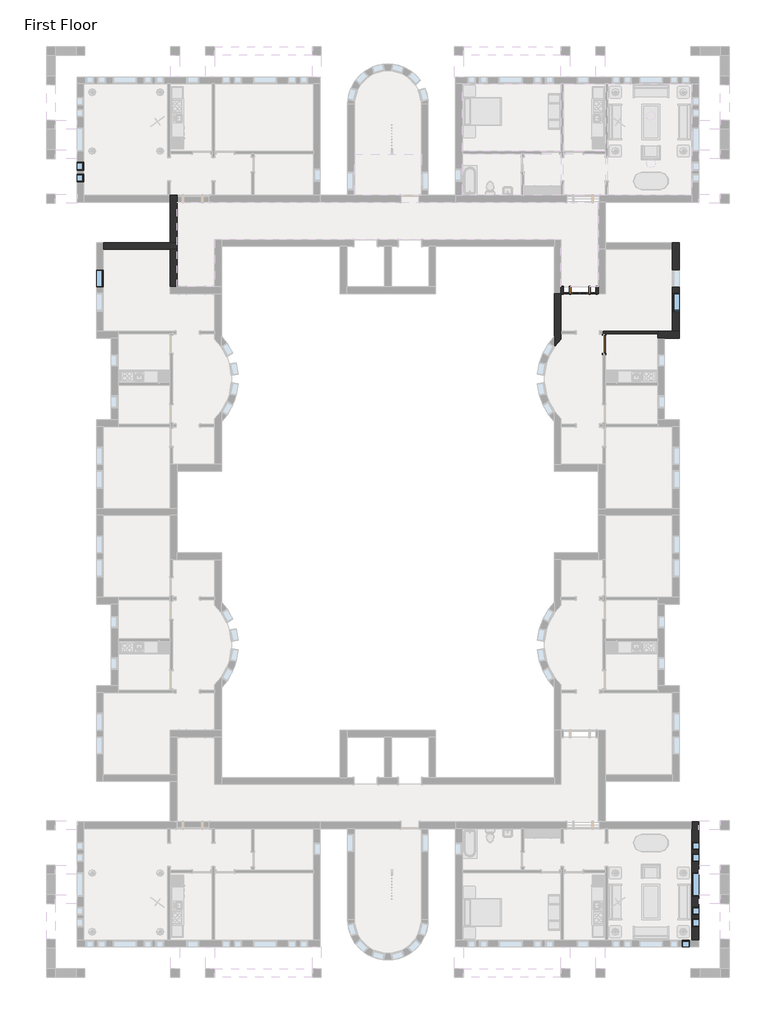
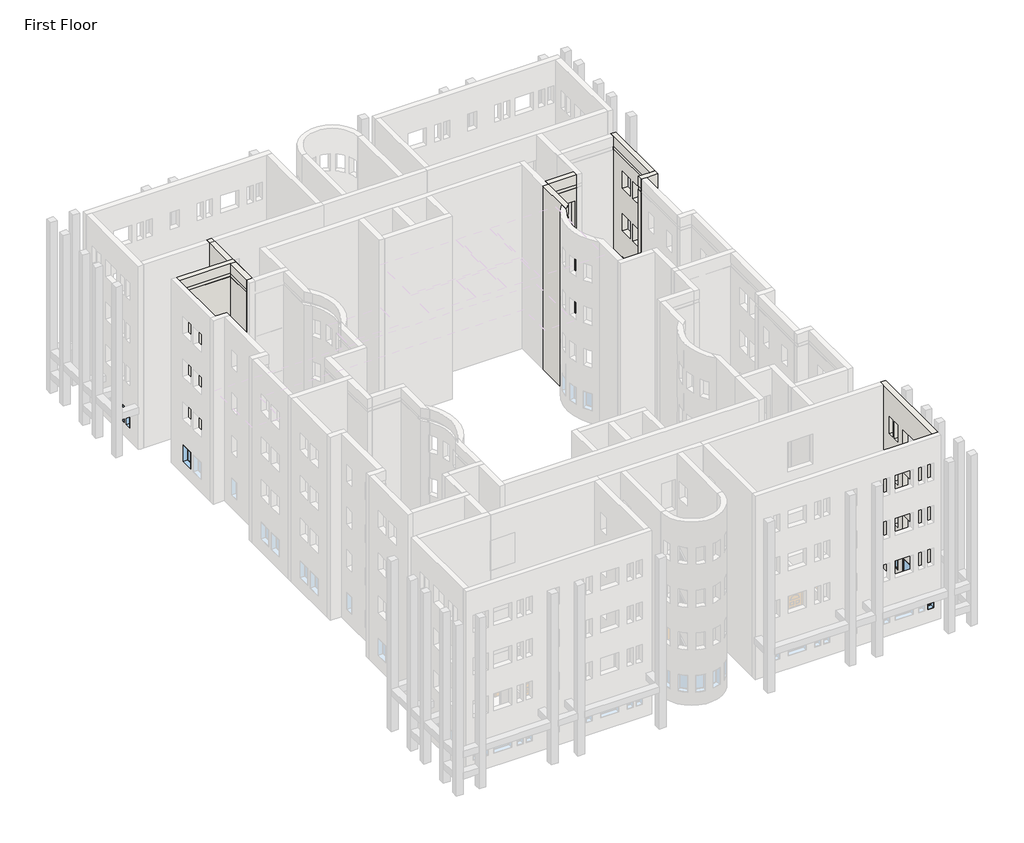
# One storey, part 13 of 23: 10 windows, 9 walls, 2 doors.
"""IFC4 building model written with IfcOpenShell, lengths in millimetres."""

from ifc_helpers import new_model, si_unit, frame, origin, place, context, project, spatial, polyline, circle_curve, outline, extrude, faceted_brep, transform, mapped, element, save
from ifc_brep_helpers import plane_surface, revolved_surface, advanced_brep
from components import door_a3eb833a, door_ffdb1193, window_da97879f, window_d61ef850, window_15c49d37, window_0e2fc6ce, window_d89bf842

model = new_model("IFC4")

# Units and contexts
model_context = context("Model", 3, world=origin())
ifc_project = project(units=[si_unit("LENGTHUNIT", "METRE", prefix="MILLI")], contexts=[model_context])

# Site, building, storey
site = spatial("IfcSite", under=ifc_project)
building = spatial("IfcBuilding", under=site)
storey = spatial("IfcBuildingStorey", under=building, Name="First Floor", Elevation=0.0)

# Doors
placement = place(None, origin())
door_shape = door_a3eb833a(model_context)
element("IfcDoor", 1, ObjectType="Single-Flush : 36\" x 84\"", at=placement, inside=storey, context=model_context, shape_type="MappedRepresentation", body=[
    mapped(door_shape, transform((-3900.4589563, -3157.0558133, 0.0), x_axis=(0.0, 1.0, 0.0), y_axis=(-1.0, 0.0, 0.0), z_axis=(0.0, 0.0, 1.0))),
])
door_2_shape = door_ffdb1193(model_context)
element("IfcDoor", 2, ObjectType="Single-Raised Panel with Sidelights : 36\" x 84\"", at=placement, inside=storey, context=model_context, shape_type="MappedRepresentation", body=[
    mapped(door_2_shape, transform((-5156.1714563, -374.1683133, 0.0), x_axis=(-1.0, 0.0, 0.0), y_axis=(0.0, -1.0, 0.0), z_axis=(0.0, 0.0, 1.0))),
])

# Walls
element("IfcWall", 3, ObjectType="Exterior - Brick on Mtl. Stud", at=placement, inside=storey, context=model_context, shape_type="Brep", body=[
    faceted_brep([(-25934.9589563, -197.9558133, 0.0), (-25934.9589563, 4174.0191867, 0.0), (-25934.9589563, 4526.4441867, 0.0), (-25934.9589563, 4526.4441867, 13106.4), (-25934.9589563, 4174.0191867, 13106.4), (-25934.9589563, -197.9558133, 13106.4), (-26287.3839563, -197.9558133, 0.0), (-26287.3839563, -197.9558133, 13106.4), (-26287.3839563, 4526.4441867, 13106.4), (-26287.3839563, 4526.4441867, 0.0)], [[[0, 1, 2, 3, 4, 5]], [[6, 7, 8, 9]], [[2, 1, 0, 6, 9]], [[5, 4, 3, 8, 7]], [[3, 2, 9, 8]], [[0, 5, 7, 6]]]),
])
element("IfcWall", 4, ObjectType="Exterior - Brick on Mtl. Stud", at=placement, inside=storey, context=model_context, shape_type="Brep", body=[
    faceted_brep([(-6122.9589563, -197.9558133, 13106.4), (-4189.3839563, -197.9558133, 13106.4), (-4189.3839563, -197.9558133, 0.0), (-4317.9714563, -197.9558133, 0.0), (-4317.9714563, -197.9558133, 2133.6), (-5994.3714563, -197.9558133, 2133.6), (-5994.3714563, -197.9558133, 0.0), (-6122.9589563, -197.9558133, 0.0), (-5994.3714563, -197.9558133, 6096.0), (-4317.9714563, -197.9558133, 6096.0), (-4317.9714563, -197.9558133, 8229.6), (-5994.3714563, -197.9558133, 8229.6), (-5994.3714563, -197.9558133, 3048.0), (-4317.9714563, -197.9558133, 3048.0), (-4317.9714563, -197.9558133, 5181.6), (-5994.3714563, -197.9558133, 5181.6), (-5994.3714563, -197.9558133, 9144.0), (-4317.9714563, -197.9558133, 9144.0), (-4317.9714563, -197.9558133, 11277.6), (-5994.3714563, -197.9558133, 11277.6), (-4189.3839563, -550.3808133, 13106.4), (-6122.9589563, -550.3808133, 13106.4), (-6122.9589563, -550.3808133, 12420.6), (-4189.3839563, -550.3808133, 12420.6), (-5994.3714563, -550.3808133, 0.0), (-5994.3714563, -550.3808133, 2133.6), (-4317.9714563, -550.3808133, 2133.6), (-4317.9714563, -550.3808133, 0.0), (-4189.3839563, -550.3808133, 0.0), (-4189.3839563, -550.3808133, 12192.0), (-6122.9589563, -550.3808133, 12192.0), (-6122.9589563, -550.3808133, 0.0), (-4317.9714563, -550.3808133, 6096.0), (-5994.3714563, -550.3808133, 6096.0), (-5994.3714563, -550.3808133, 8229.6), (-4317.9714563, -550.3808133, 8229.6), (-4317.9714563, -550.3808133, 3048.0), (-5994.3714563, -550.3808133, 3048.0), (-5994.3714563, -550.3808133, 5181.6), (-4317.9714563, -550.3808133, 5181.6), (-4317.9714563, -550.3808133, 9144.0), (-5994.3714563, -550.3808133, 9144.0), (-5994.3714563, -550.3808133, 11277.6), (-4317.9714563, -550.3808133, 11277.6), (-4189.3839563, -537.6808133, 12420.6), (-4189.3839563, -537.6808133, 12192.0), (-6122.9589563, -537.6808133, 12192.0), (-6122.9589563, -537.6808133, 12420.6)], [[[0, 1, 2, 3, 4, 5, 6, 7], [8, 9, 10, 11], [12, 13, 14, 15], [16, 17, 18, 19]], [[20, 21, 22, 23]], [[24, 25, 26, 27, 28, 29, 30, 31], [32, 33, 34, 35], [36, 37, 38, 39], [40, 41, 42, 43]], [[2, 28, 27, 3]], [[31, 7, 6, 24]], [[1, 0, 21, 20]], [[2, 1, 20, 23, 44, 45, 29, 28]], [[0, 7, 31, 30, 46, 47, 22, 21]], [[25, 24, 6, 5]], [[26, 25, 5, 4]], [[27, 26, 4, 3]], [[33, 32, 9, 8]], [[34, 33, 8, 11]], [[35, 34, 11, 10]], [[32, 35, 10, 9]], [[37, 36, 13, 12]], [[38, 37, 12, 15]], [[39, 38, 15, 14]], [[36, 39, 14, 13]], [[41, 40, 17, 16]], [[42, 41, 16, 19]], [[43, 42, 19, 18]], [[40, 43, 18, 17]], [[45, 46, 30, 29]], [[47, 44, 23, 22]], [[46, 45, 44, 47]]]),
])
element("IfcWall", 5, ObjectType="Exterior - Brick on Mtl. Stud", at=placement, inside=storey, context=model_context, shape_type="AdvancedBrep", body=[
    advanced_brep(
    [(-6475.3839563, -550.3808133, 0.0), (-6475.3839563, -2741.7830793, 0.0), (-6475.3839563, -3299.6776635, 0.0), (-6475.3839563, -3299.6776635, 914.4), (-6475.3839563, -3250.3894156, 914.4), (-6475.3839563, -3250.3894156, 2133.6), (-6475.3839563, -3299.6776635, 2133.6), (-6475.3839563, -3299.6776635, 3962.4), (-6475.3839563, -3250.3894156, 3962.4), (-6475.3839563, -3250.3894156, 5181.6), (-6475.3839563, -3299.6776635, 5181.6), (-6475.3839563, -3299.6776635, 7010.4), (-6475.3839563, -3250.3894156, 7010.4), (-6475.3839563, -3250.3894156, 8229.6), (-6475.3839563, -3299.6776635, 8229.6), (-6475.3839563, -3299.6776635, 10058.4), (-6475.3839563, -3250.3894156, 10058.4), (-6475.3839563, -3250.3894156, 11277.6), (-6475.3839563, -3299.6776635, 11277.6), (-6475.3839563, -3299.6776635, 12192.0), (-6475.3839563, -2991.1907425, 12192.0), (-6475.3839563, -2991.1907425, 12420.6), (-6475.3839563, -3299.6776635, 12420.6), (-6475.3839563, -3299.6776635, 13106.4), (-6475.3839563, -2741.7830793, 13106.4), (-6475.3839563, -550.3808133, 13106.4), (-6122.9589563, -2885.7839656, 0.0), (-6122.9589563, -2610.9558133, 0.0), (-6122.9589563, -2483.9558133, 0.0), (-6122.9589563, -550.3808133, 0.0), (-6122.9589563, -550.3808133, 12192.0), (-6122.9589563, -2483.9558133, 12192.0), (-6122.9589563, -2610.9558133, 12192.0), (-6122.9589563, -2885.7839656, 12192.0), (-6122.9589563, -550.3808133, 13106.4), (-6122.9589563, -2885.7839656, 13106.4), (-6122.9589563, -2885.7839656, 12420.6), (-6122.9589563, -550.3808133, 12420.6), (-6469.9143656, -3291.8888446, 11277.6), (-6469.9143656, -3291.8888446, 10058.4), (-6469.9143656, -3291.8888446, 8229.6), (-6469.9143656, -3291.8888446, 7010.4), (-6469.9143656, -3291.8888446, 5181.6), (-6469.9143656, -3291.8888446, 3962.4), (-6469.9143656, -3291.8888446, 2133.6), (-6469.9143656, -3291.8888446, 914.4), (-6135.6589563, -550.3808133, 12420.6), (-6135.6589563, -550.3808133, 12192.0), (-6453.3830671, -3262.9631051, 2133.6), (-6453.3830671, -3262.9631051, 914.4), (-6453.3830671, -3262.9631051, 11277.6), (-6453.3830671, -3262.9631051, 10058.4), (-6453.3830671, -3262.9631051, 5181.6), (-6453.3830671, -3262.9631051, 3962.4), (-6453.3830671, -3262.9631051, 8229.6), (-6453.3830671, -3262.9631051, 7010.4), (-6135.6589563, -2642.86294, 12192.0), (-6135.6589563, -2642.86294, 12420.6)],
    [
        (0, 1),
        (1, 2),
        (2, 3),
        (3, 4),
        (4, 5),
        (5, 6),
        (6, 7),
        (7, 8),
        (8, 9),
        (9, 10),
        (10, 11),
        (11, 12),
        (12, 13),
        (13, 14),
        (14, 15),
        (15, 16),
        (16, 17),
        (17, 18),
        (18, 19),
        (19, 20),
        (20, 21),
        (21, 22),
        (22, 23),
        (23, 24),
        (24, 25),
        (25, 0),
        (26, 27),
        (27, 28),
        (28, 29),
        (29, 30),
        (30, 31),
        (31, 32),
        (32, 33),
        (33, 26),
        (34, 35),
        (35, 36),
        (36, 37),
        (37, 34),
        (0, 29),
        (26, 2, circle_curve(frame((-4122.4640713, -4946.1683133, 0.0), z_axis=(0.0, 0.0, 1.0), x_axis=(0.0, 1.0, 0.0)), 2871.7875)),
        (23, 35, circle_curve(frame((-4122.4640713, -4946.1683133, 13106.4), z_axis=(0.0, 0.0, -1.0), x_axis=(0.0, 1.0, 0.0)), 2871.7875)),
        (34, 25),
        (33, 19, circle_curve(frame((-4122.4640713, -4946.1683133, 12192.0), z_axis=(0.0, 0.0, 1.0), x_axis=(0.0, 1.0, 0.0)), 2871.7875)),
        (18, 38, circle_curve(frame((-4122.4640713, -4946.1683133, 11277.6), z_axis=(0.0, 0.0, -1.0), x_axis=(0.0, 1.0, 0.0)), 2871.7875)),
        (38, 39),
        (39, 15, circle_curve(frame((-4122.4640713, -4946.1683133, 10058.4), z_axis=(0.0, 0.0, 1.0), x_axis=(0.0, 1.0, 0.0)), 2871.7875)),
        (14, 40, circle_curve(frame((-4122.4640713, -4946.1683133, 8229.6), z_axis=(0.0, 0.0, -1.0), x_axis=(0.0, 1.0, 0.0)), 2871.7875)),
        (40, 41),
        (41, 11, circle_curve(frame((-4122.4640713, -4946.1683133, 7010.4), z_axis=(0.0, 0.0, 1.0), x_axis=(0.0, 1.0, 0.0)), 2871.7875)),
        (10, 42, circle_curve(frame((-4122.4640713, -4946.1683133, 5181.6), z_axis=(0.0, 0.0, -1.0), x_axis=(0.0, 1.0, 0.0)), 2871.7875)),
        (42, 43),
        (43, 7, circle_curve(frame((-4122.4640713, -4946.1683133, 3962.4), z_axis=(0.0, 0.0, 1.0), x_axis=(0.0, 1.0, 0.0)), 2871.7875)),
        (6, 44, circle_curve(frame((-4122.4640713, -4946.1683133, 2133.6), z_axis=(0.0, 0.0, -1.0), x_axis=(0.0, 1.0, 0.0)), 2871.7875)),
        (44, 45),
        (45, 3, circle_curve(frame((-4122.4640713, -4946.1683133, 914.4), z_axis=(0.0, 0.0, 1.0), x_axis=(0.0, 1.0, 0.0)), 2871.7875)),
        (22, 36, circle_curve(frame((-4122.4640713, -4946.1683133, 12420.6), z_axis=(0.0, 0.0, -1.0), x_axis=(0.0, 1.0, 0.0)), 2871.7875)),
        (37, 46),
        (46, 47),
        (47, 30),
        (48, 49),
        (49, 45),
        (44, 48),
        (49, 4),
        (48, 5),
        (50, 51),
        (51, 39),
        (38, 50),
        (51, 16),
        (50, 17),
        (52, 53),
        (53, 43),
        (42, 52),
        (53, 8),
        (52, 9),
        (54, 55),
        (55, 41),
        (40, 54),
        (55, 12),
        (54, 13),
        (47, 56),
        (56, 20, circle_curve(frame((-4122.4640713, -4946.1683133, 12192.0), z_axis=(0.0, 0.0, 1.0), x_axis=(0.0, -1.0, 0.0)), 3059.1125)),
        (21, 57, circle_curve(frame((-4122.4640713, -4946.1683133, 12420.6), z_axis=(0.0, 0.0, -1.0), x_axis=(0.0, -1.0, 0.0)), 3059.1125)),
        (57, 46),
        (57, 56),
    ],
    [
        plane_surface(frame((-6475.3839563, -374.1683133, 0.0), z_axis=(-1.0, 0.0, 0.0), x_axis=(0.0, -1.0, 0.0))),
        plane_surface(frame((-6122.9589563, -374.1683133, 0.0), z_axis=(1.0, 0.0, 0.0), x_axis=(0.0, 1.0, 0.0))),
        plane_surface(frame((-6475.3839563, -374.1683133, 0.0), z_axis=(0.0, 0.0, -1.0), x_axis=(1.0, 0.0, 0.0))),
        plane_surface(frame((-6475.3839563, -2812.5683133, 13106.4), z_axis=(0.0, 0.0, 1.0), x_axis=(1.0, 0.0, 0.0))),
        revolved_surface(polyline([(-4122.4640713, -2074.3808132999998, 0.0), (-4122.4640713, -2074.3808132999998, 12192.0)]), (-4122.4640713, -4946.1683133, 0.0), (0.0, 0.0, -1.0)),
        revolved_surface(polyline([(-4122.4640713, -2074.3808132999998, 12420.6), (-4122.4640713, -2074.3808132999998, 13106.4)]), (-4122.4640713, -4946.1683133, 0.0), (0.0, 0.0, -1.0)),
        plane_surface(frame((-4013.1714563, -550.3808133, 0.0), z_axis=(0.0, 1.0, 0.0), x_axis=(1.0, 0.0, 0.0))),
        plane_surface(frame((-6755.8611513, -3792.2259591, 2133.6), z_axis=(-0.868213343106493, 0.4961910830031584, 0.0), x_axis=(0.0, 0.0, -1.0))),
        plane_surface(frame((-6755.8611513, -3792.2259591, 914.4), z_axis=(0.0, 0.0, 1.0000000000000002), x_axis=(-0.868213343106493, 0.49619108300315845, 0.0))),
        plane_surface(frame((-6453.3830671, -3262.9631051, 914.4), z_axis=(-0.49619108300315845, -0.868213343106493, 0.0), x_axis=(-0.868213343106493, 0.49619108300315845, 0.0))),
        plane_surface(frame((-6453.3830671, -3262.9631051, 2133.6), z_axis=(0.0, 0.0, -1.0000000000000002), x_axis=(-0.868213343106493, 0.49619108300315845, 0.0))),
        plane_surface(frame((-6755.8611513, -3792.2259591, 11277.6), z_axis=(-0.868213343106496, 0.496191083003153, 0.0), x_axis=(0.0, 0.0, -1.0))),
        plane_surface(frame((-6755.8611513, -3792.2259591, 10058.4), z_axis=(0.0, 0.0, 1.0), x_axis=(-0.8682133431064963, 0.49619108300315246, 0.0))),
        plane_surface(frame((-6453.3830671, -3262.9631051, 10058.4), z_axis=(-0.49619108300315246, -0.8682133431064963, 0.0), x_axis=(-0.8682133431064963, 0.49619108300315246, 0.0))),
        plane_surface(frame((-6453.3830671, -3262.9631051, 11277.6), z_axis=(0.0, 0.0, -1.0), x_axis=(-0.8682133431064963, 0.49619108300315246, 0.0))),
        plane_surface(frame((-6755.8611513, -3792.2259591, 5181.6), z_axis=(-0.868213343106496, 0.496191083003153, 0.0), x_axis=(0.0, 0.0, -1.0))),
        plane_surface(frame((-6755.8611513, -3792.2259591, 3962.4), z_axis=(0.0, 0.0, 1.0), x_axis=(-0.8682133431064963, 0.49619108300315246, 0.0))),
        plane_surface(frame((-6453.3830671, -3262.9631051, 3962.4), z_axis=(-0.49619108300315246, -0.8682133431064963, 0.0), x_axis=(-0.8682133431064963, 0.49619108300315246, 0.0))),
        plane_surface(frame((-6453.3830671, -3262.9631051, 5181.6), z_axis=(0.0, 0.0, -1.0), x_axis=(-0.8682133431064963, 0.49619108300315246, 0.0))),
        plane_surface(frame((-6755.8611513, -3792.2259591, 8229.6), z_axis=(-0.868213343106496, 0.496191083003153, 0.0), x_axis=(0.0, 0.0, -1.0))),
        plane_surface(frame((-6755.8611513, -3792.2259591, 7010.4), z_axis=(0.0, 0.0, 1.0), x_axis=(-0.8682133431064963, 0.49619108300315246, 0.0))),
        plane_surface(frame((-6453.3830671, -3262.9631051, 7010.4), z_axis=(-0.49619108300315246, -0.8682133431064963, 0.0), x_axis=(-0.8682133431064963, 0.49619108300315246, 0.0))),
        plane_surface(frame((-6453.3830671, -3262.9631051, 8229.6), z_axis=(0.0, 0.0, -1.0), x_axis=(-0.8682133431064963, 0.49619108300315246, 0.0))),
        plane_surface(frame((-366.6839563, -11640.6558133, 12192.0), z_axis=(0.0, 0.0, 1.0), x_axis=(1.0, 0.0, 0.0))),
        plane_surface(frame((-366.6839563, -11640.6558133, 12420.6), z_axis=(0.0, 0.0, -1.0), x_axis=(1.0, 0.0, 0.0))),
        plane_surface(frame((-6135.6589563, -537.6808133, 12192.0), z_axis=(1.0, 0.0, 0.0), x_axis=(0.0, -1.0, 0.0))),
        revolved_surface(polyline([(-4122.4640713, -8005.2808133, 12420.6), (-4122.4640713, -8005.2808133, 12192.0)]), (-4122.4640713, -4946.1683133, 12192.0), (0.0, 0.0, 1.0)),
    ],
    [
        (0, [[1, 2, 3, 4, 5, 6, 7, 8, 9, 10, 11, 12, 13, 14, 15, 16, 17, 18, 19, 20, 21, 22, 23, 24, 25, 26]]),
        (1, [[27, 28, 29, 30, 31, 32, 33, 34]]),
        (1, [[35, 36, 37, 38]]),
        (2, [[-2, -1, 39, -29, -28, -27, 40]]),
        (3, [[-25, -24, 41, -35, 42]]),
        (4, [[-40, -34, 43, -19, 44, 45, 46, -15, 47, 48, 49, -11, 50, 51, 52, -7, 53, 54, 55, -3]]),
        (5, [[-41, -23, 56, -36]]),
        (6, [[-26, -42, -38, 57, 58, 59, -30, -39]]),
        (7, [[60, 61, -54, 62]]),
        (8, [[63, -4, -55, -61]]),
        (9, [[-60, 64, -5, -63]]),
        (10, [[-64, -62, -53, -6]]),
        (11, [[65, 66, -45, 67]]),
        (12, [[68, -16, -46, -66]]),
        (13, [[-65, 69, -17, -68]]),
        (14, [[-69, -67, -44, -18]]),
        (15, [[70, 71, -51, 72]]),
        (16, [[73, -8, -52, -71]]),
        (17, [[-70, 74, -9, -73]]),
        (18, [[-74, -72, -50, -10]]),
        (19, [[75, 76, -48, 77]]),
        (20, [[78, -12, -49, -76]]),
        (21, [[-75, 79, -13, -78]]),
        (22, [[-79, -77, -47, -14]]),
        (23, [[80, 81, -20, -43, -33, -32, -31, -59]]),
        (24, [[82, 83, -57, -37, -56, -22]]),
        (25, [[84, -80, -58, -83]]),
        (26, [[-84, -82, -21, -81]]),
    ],
),
])
element("IfcWall", 6, ObjectType="Exterior - Brick on Mtl. Stud", at=placement, inside=storey, context=model_context, shape_type="Brep", body=[
    faceted_brep([(-1141.3839563, -2836.3808133, 0.0), (-788.9589563, -2836.3808133, 0.0), (-26.9589563, -2836.3808133, 0.0), (-26.9589563, -2836.3808133, 13106.4), (-788.9589563, -2836.3808133, 13106.4), (-1141.3839563, -2836.3808133, 13106.4), (-1141.3839563, -2836.3808133, 12420.6), (-1128.6839563, -2836.3808133, 12420.6), (-1128.6839563, -2836.3808133, 12192.0), (-1141.3839563, -2836.3808133, 12192.0), (-26.9589563, -2483.9558133, 0.0), (-379.3839563, -2483.9558133, 0.0), (-1141.3839563, -2483.9558133, 0.0), (-1141.3839563, -2483.9558133, 3048.0), (-1141.3839563, -2483.9558133, 6096.0), (-1141.3839563, -2483.9558133, 9144.0), (-1141.3839563, -2483.9558133, 12192.0), (-379.3839563, -2483.9558133, 12192.0), (-366.6839563, -2483.9558133, 12192.0), (-366.6839563, -2483.9558133, 12420.6), (-379.3839563, -2483.9558133, 12420.6), (-1141.3839563, -2483.9558133, 12420.6), (-1141.3839563, -2483.9558133, 13106.4), (-379.3839563, -2483.9558133, 13106.4), (-26.9589563, -2483.9558133, 13106.4), (-1141.3839563, -2610.9558133, 0.0), (-1141.3839563, -2610.9558133, 12192.0), (-1128.6839563, -2496.6558133, 12192.0), (-366.6839563, -2496.6558133, 12192.0), (-366.6839563, -2496.6558133, 12420.6), (-1128.6839563, -2496.6558133, 12420.6)], [[[0, 1, 2, 3, 4, 5, 6, 7, 8, 9]], [[10, 11, 12, 13, 14, 15, 16, 17, 18, 19, 20, 21, 22, 23, 24]], [[2, 1, 0, 25, 12, 11, 10]], [[5, 4, 3, 24, 23, 22]], [[12, 25, 0, 9, 26, 16, 15, 14, 13]], [[5, 22, 21, 6]], [[3, 2, 10, 24]], [[27, 28, 18, 17, 16, 26, 9, 8]], [[29, 30, 7, 6, 21, 20, 19]], [[30, 27, 8, 7]], [[28, 27, 30, 29]], [[28, 29, 19, 18]]]),
])
element("IfcWall", 7, ObjectType="Exterior - Brick on Mtl. Stud", at=placement, inside=storey, context=model_context, shape_type="Brep", body=[
    faceted_brep([(-26.9589563, -2483.9558133, 0.0), (-26.9589563, 2088.0441867, 0.0), (-26.9589563, 2088.0441867, 13106.4), (-26.9589563, -2483.9558133, 13106.4), (-26.9589563, -1440.9683133, 7010.4), (-26.9589563, -1440.9683133, 8229.6), (-26.9589563, -526.5683133, 8229.6), (-26.9589563, -526.5683133, 7010.4), (-26.9589563, -221.7683133, 7010.4), (-26.9589563, -221.7683133, 8229.6), (-26.9589563, 692.6316867, 8229.6), (-26.9589563, 692.6316867, 7010.4), (-26.9589563, -1440.9683133, 3962.4), (-26.9589563, -1440.9683133, 5181.6), (-26.9589563, -526.5683133, 5181.6), (-26.9589563, -526.5683133, 3962.4), (-26.9589563, -221.7683133, 3962.4), (-26.9589563, -221.7683133, 5181.6), (-26.9589563, 692.6316867, 5181.6), (-26.9589563, 692.6316867, 3962.4), (-26.9589563, -1440.9683133, 10058.4), (-26.9589563, -1440.9683133, 11277.6), (-26.9589563, -526.5683133, 11277.6), (-26.9589563, -526.5683133, 10058.4), (-26.9589563, -221.7683133, 10058.4), (-26.9589563, -221.7683133, 11277.6), (-26.9589563, 692.6316867, 11277.6), (-26.9589563, 692.6316867, 10058.4), (-26.9589563, -1440.9683133, 914.4), (-26.9589563, -1440.9683133, 2133.6), (-26.9589563, -526.5683133, 2133.6), (-26.9589563, -526.5683133, 914.4), (-26.9589563, -221.7683133, 914.4), (-26.9589563, -221.7683133, 2133.6), (-26.9589563, 692.6316867, 2133.6), (-26.9589563, 692.6316867, 914.4), (-379.3839563, 2088.0441867, 0.0), (-379.3839563, 1735.6191867, 0.0), (-379.3839563, -2483.9558133, 0.0), (-379.3839563, -2483.9558133, 12192.0), (-379.3839563, 1735.6191867, 12192.0), (-379.3839563, 1748.3191867, 12192.0), (-379.3839563, 1748.3191867, 12420.6), (-379.3839563, 1735.6191867, 12420.6), (-379.3839563, -2483.9558133, 12420.6), (-379.3839563, -2483.9558133, 13106.4), (-379.3839563, 1735.6191867, 13106.4), (-379.3839563, 2088.0441867, 13106.4), (-379.3839563, -1440.9683133, 8229.6), (-379.3839563, -1440.9683133, 7010.4), (-379.3839563, -526.5683133, 7010.4), (-379.3839563, -526.5683133, 8229.6), (-379.3839563, -221.7683133, 8229.6), (-379.3839563, -221.7683133, 7010.4), (-379.3839563, 692.6316867, 7010.4), (-379.3839563, 692.6316867, 8229.6), (-379.3839563, -1440.9683133, 5181.6), (-379.3839563, -1440.9683133, 3962.4), (-379.3839563, -526.5683133, 3962.4), (-379.3839563, -526.5683133, 5181.6), (-379.3839563, -221.7683133, 5181.6), (-379.3839563, -221.7683133, 3962.4), (-379.3839563, 692.6316867, 3962.4), (-379.3839563, 692.6316867, 5181.6), (-379.3839563, -1440.9683133, 11277.6), (-379.3839563, -1440.9683133, 10058.4), (-379.3839563, -526.5683133, 10058.4), (-379.3839563, -526.5683133, 11277.6), (-379.3839563, -221.7683133, 11277.6), (-379.3839563, -221.7683133, 10058.4), (-379.3839563, 692.6316867, 10058.4), (-379.3839563, 692.6316867, 11277.6), (-379.3839563, -1440.9683133, 2133.6), (-379.3839563, -1440.9683133, 914.4), (-379.3839563, -526.5683133, 914.4), (-379.3839563, -526.5683133, 2133.6), (-379.3839563, -221.7683133, 2133.6), (-379.3839563, -221.7683133, 914.4), (-379.3839563, 692.6316867, 914.4), (-379.3839563, 692.6316867, 2133.6), (-366.6839563, -2483.9558133, 12420.6), (-366.6839563, -2483.9558133, 12192.0), (-366.6839563, 1748.3191867, 12192.0), (-366.6839563, 1748.3191867, 12420.6)], [[[0, 1, 2, 3], [4, 5, 6, 7], [8, 9, 10, 11], [12, 13, 14, 15], [16, 17, 18, 19], [20, 21, 22, 23], [24, 25, 26, 27], [28, 29, 30, 31], [32, 33, 34, 35]], [[36, 37, 38, 39, 40, 41, 42, 43, 44, 45, 46, 47], [48, 49, 50, 51], [52, 53, 54, 55], [56, 57, 58, 59], [60, 61, 62, 63], [64, 65, 66, 67], [68, 69, 70, 71], [72, 73, 74, 75], [76, 77, 78, 79]], [[1, 0, 38, 37, 36]], [[3, 2, 47, 46, 45]], [[2, 1, 36, 47]], [[0, 3, 45, 44, 80, 81, 39, 38]], [[49, 48, 5, 4]], [[50, 49, 4, 7]], [[51, 50, 7, 6]], [[48, 51, 6, 5]], [[53, 52, 9, 8]], [[54, 53, 8, 11]], [[55, 54, 11, 10]], [[52, 55, 10, 9]], [[57, 56, 13, 12]], [[58, 57, 12, 15]], [[59, 58, 15, 14]], [[56, 59, 14, 13]], [[61, 60, 17, 16]], [[62, 61, 16, 19]], [[63, 62, 19, 18]], [[60, 63, 18, 17]], [[65, 64, 21, 20]], [[66, 65, 20, 23]], [[67, 66, 23, 22]], [[64, 67, 22, 21]], [[69, 68, 25, 24]], [[70, 69, 24, 27]], [[71, 70, 27, 26]], [[68, 71, 26, 25]], [[73, 72, 29, 28]], [[74, 73, 28, 31]], [[75, 74, 31, 30]], [[72, 75, 30, 29]], [[77, 76, 33, 32]], [[78, 77, 32, 35]], [[79, 78, 35, 34]], [[76, 79, 34, 33]], [[81, 82, 41, 40, 39]], [[42, 83, 80, 44, 43]], [[83, 82, 81, 80]], [[82, 83, 42, 41]]]),
])
element("IfcWall", 8, ObjectType="Exterior - Brick on Mtl. Stud", at=placement, inside=storey, context=model_context, shape_type="Brep", body=[
    faceted_brep([(-29744.9589563, 1735.6191867, 0.0), (-26287.3839563, 1735.6191867, 0.0), (-25934.9589563, 1735.6191867, 0.0), (-25934.9589563, 1735.6191867, 13106.4), (-26287.3839563, 1735.6191867, 13106.4), (-29744.9589563, 1735.6191867, 13106.4), (-29744.9589563, 1735.6191867, 12420.6), (-26287.3839563, 1735.6191867, 12420.6), (-26274.6839563, 1735.6191867, 12420.6), (-26274.6839563, 1735.6191867, 12192.0), (-26287.3839563, 1735.6191867, 12192.0), (-29744.9589563, 1735.6191867, 12192.0), (-25934.9589563, 2088.0441867, 0.0), (-29744.9589563, 2088.0441867, 0.0), (-29744.9589563, 2088.0441867, 13106.4), (-25934.9589563, 2088.0441867, 13106.4), (-29744.9589563, 1748.3191867, 12192.0), (-29744.9589563, 1748.3191867, 12420.6), (-26274.6839563, 1748.3191867, 12192.0), (-26274.6839563, 1748.3191867, 12420.6)], [[[0, 1, 2, 3, 4, 5, 6, 7, 8, 9, 10, 11]], [[12, 13, 14, 15]], [[2, 1, 0, 13, 12]], [[5, 4, 3, 15, 14]], [[3, 2, 12, 15]], [[5, 14, 13, 0, 11, 16, 17, 6]], [[9, 18, 16, 11, 10]], [[17, 19, 8, 7, 6]], [[18, 19, 17, 16]], [[19, 18, 9, 8]]]),
])
element("IfcWall", 9, ObjectType="Exterior - Brick on Mtl. Stud", at=placement, inside=storey, context=model_context, shape_type="SweptSolid", body=[
    extrude(outline(polyline([(0.0, -26287.3839563), (0.0, -25934.9589563), (13106.4, -25934.9589563), (13106.4, -26287.3839563), (12420.6, -26287.3839563), (12420.6, -26274.6839563), (12192.0, -26274.6839563), (12192.0, -26287.3839563), (0.0, -26287.3839563)])), frame((0.0, -197.9558133, 0.0), z_axis=(0.0, 1.0, 0.0), x_axis=(0.0, 0.0, 1.0)), (0.0, 0.0, 1.0), 1933.575),
])
element("IfcWall", 10, ObjectType="Exterior - Brick on Mtl. Stud", at=placement, inside=storey, context=model_context, shape_type="Brep", body=[
    faceted_brep([(974.7535437, -33878.3558133, 0.0), (974.7535437, -27969.6808133, 0.0), (974.7535437, -27782.3558133, 0.0), (974.7535437, -27782.3558133, 13106.4), (974.7535437, -33878.3558133, 13106.4), (974.7535437, -29431.7683133, 8229.6), (974.7535437, -29431.7683133, 7010.4), (974.7535437, -29838.1683133, 7010.4), (974.7535437, -29838.1683133, 8229.6), (974.7535437, -28822.1683133, 8229.6), (974.7535437, -28822.1683133, 7010.4), (974.7535437, -29228.5683133, 7010.4), (974.7535437, -29228.5683133, 8229.6), (974.7535437, -32581.3683133, 8229.6), (974.7535437, -32174.9683133, 8229.6), (974.7535437, -32174.9683133, 7010.4), (974.7535437, -32581.3683133, 7010.4), (974.7535437, -33190.9683133, 8229.6), (974.7535437, -32784.5683133, 8229.6), (974.7535437, -32784.5683133, 7010.4), (974.7535437, -33190.9683133, 7010.4), (974.7535437, -31616.1683133, 8229.6), (974.7535437, -30396.9683133, 8229.6), (974.7535437, -30396.9683133, 7010.4), (974.7535437, -31616.1683133, 7010.4), (974.7535437, -29431.7683133, 5181.6), (974.7535437, -29431.7683133, 3962.4), (974.7535437, -29838.1683133, 3962.4), (974.7535437, -29838.1683133, 5181.6), (974.7535437, -28822.1683133, 5181.6), (974.7535437, -28822.1683133, 3962.4), (974.7535437, -29228.5683133, 3962.4), (974.7535437, -29228.5683133, 5181.6), (974.7535437, -32581.3683133, 5181.6), (974.7535437, -32174.9683133, 5181.6), (974.7535437, -32174.9683133, 3962.4), (974.7535437, -32581.3683133, 3962.4), (974.7535437, -33190.9683133, 5181.6), (974.7535437, -32784.5683133, 5181.6), (974.7535437, -32784.5683133, 3962.4), (974.7535437, -33190.9683133, 3962.4), (974.7535437, -31616.1683133, 5181.6), (974.7535437, -30396.9683133, 5181.6), (974.7535437, -30396.9683133, 3962.4), (974.7535437, -31616.1683133, 3962.4), (974.7535437, -29431.7683133, 11277.6), (974.7535437, -29431.7683133, 10058.4), (974.7535437, -29838.1683133, 10058.4), (974.7535437, -29838.1683133, 11277.6), (974.7535437, -28822.1683133, 11277.6), (974.7535437, -28822.1683133, 10058.4), (974.7535437, -29228.5683133, 10058.4), (974.7535437, -29228.5683133, 11277.6), (974.7535437, -32581.3683133, 11277.6), (974.7535437, -32174.9683133, 11277.6), (974.7535437, -32174.9683133, 10058.4), (974.7535437, -32581.3683133, 10058.4), (974.7535437, -33190.9683133, 11277.6), (974.7535437, -32784.5683133, 11277.6), (974.7535437, -32784.5683133, 10058.4), (974.7535437, -33190.9683133, 10058.4), (974.7535437, -31616.1683133, 11277.6), (974.7535437, -30396.9683133, 11277.6), (974.7535437, -30396.9683133, 10058.4), (974.7535437, -31616.1683133, 10058.4), (974.7535437, -29431.7683133, 2133.6), (974.7535437, -29431.7683133, 914.4), (974.7535437, -29838.1683133, 914.4), (974.7535437, -29838.1683133, 2133.6), (974.7535437, -28822.1683133, 2133.6), (974.7535437, -28822.1683133, 914.4), (974.7535437, -29228.5683133, 914.4), (974.7535437, -29228.5683133, 2133.6), (974.7535437, -32581.3683133, 2133.6), (974.7535437, -32174.9683133, 2133.6), (974.7535437, -32174.9683133, 914.4), (974.7535437, -32581.3683133, 914.4), (974.7535437, -33190.9683133, 2133.6), (974.7535437, -32784.5683133, 2133.6), (974.7535437, -32784.5683133, 914.4), (974.7535437, -33190.9683133, 914.4), (974.7535437, -31616.1683133, 2133.6), (974.7535437, -30396.9683133, 2133.6), (974.7535437, -30396.9683133, 914.4), (974.7535437, -31616.1683133, 914.4), (622.3285437, -33878.3558133, 0.0), (622.3285437, -33878.3558133, 13106.4), (622.3285437, -28134.7808133, 13106.4), (622.3285437, -27782.3558133, 13106.4), (622.3285437, -27782.3558133, 0.0), (622.3285437, -27969.6808133, 0.0), (622.3285437, -28134.7808133, 0.0), (622.3285437, -29431.7683133, 8229.6), (622.3285437, -29838.1683133, 8229.6), (622.3285437, -29838.1683133, 7010.4), (622.3285437, -29431.7683133, 7010.4), (622.3285437, -28822.1683133, 8229.6), (622.3285437, -29228.5683133, 8229.6), (622.3285437, -29228.5683133, 7010.4), (622.3285437, -28822.1683133, 7010.4), (622.3285437, -32581.3683133, 8229.6), (622.3285437, -32581.3683133, 7010.4), (622.3285437, -32174.9683133, 7010.4), (622.3285437, -32174.9683133, 8229.6), (622.3285437, -33190.9683133, 8229.6), (622.3285437, -33190.9683133, 7010.4), (622.3285437, -32784.5683133, 7010.4), (622.3285437, -32784.5683133, 8229.6), (622.3285437, -31616.1683133, 8229.6), (622.3285437, -31616.1683133, 7010.4), (622.3285437, -30396.9683133, 7010.4), (622.3285437, -30396.9683133, 8229.6), (622.3285437, -29431.7683133, 5181.6), (622.3285437, -29838.1683133, 5181.6), (622.3285437, -29838.1683133, 3962.4), (622.3285437, -29431.7683133, 3962.4), (622.3285437, -28822.1683133, 5181.6), (622.3285437, -29228.5683133, 5181.6), (622.3285437, -29228.5683133, 3962.4), (622.3285437, -28822.1683133, 3962.4), (622.3285437, -32581.3683133, 5181.6), (622.3285437, -32581.3683133, 3962.4), (622.3285437, -32174.9683133, 3962.4), (622.3285437, -32174.9683133, 5181.6), (622.3285437, -33190.9683133, 5181.6), (622.3285437, -33190.9683133, 3962.4), (622.3285437, -32784.5683133, 3962.4), (622.3285437, -32784.5683133, 5181.6), (622.3285437, -31616.1683133, 5181.6), (622.3285437, -31616.1683133, 3962.4), (622.3285437, -30396.9683133, 3962.4), (622.3285437, -30396.9683133, 5181.6), (622.3285437, -29431.7683133, 11277.6), (622.3285437, -29838.1683133, 11277.6), (622.3285437, -29838.1683133, 10058.4), (622.3285437, -29431.7683133, 10058.4), (622.3285437, -28822.1683133, 11277.6), (622.3285437, -29228.5683133, 11277.6), (622.3285437, -29228.5683133, 10058.4), (622.3285437, -28822.1683133, 10058.4), (622.3285437, -32581.3683133, 11277.6), (622.3285437, -32581.3683133, 10058.4), (622.3285437, -32174.9683133, 10058.4), (622.3285437, -32174.9683133, 11277.6), (622.3285437, -33190.9683133, 11277.6), (622.3285437, -33190.9683133, 10058.4), (622.3285437, -32784.5683133, 10058.4), (622.3285437, -32784.5683133, 11277.6), (622.3285437, -31616.1683133, 11277.6), (622.3285437, -31616.1683133, 10058.4), (622.3285437, -30396.9683133, 10058.4), (622.3285437, -30396.9683133, 11277.6), (622.3285437, -29431.7683133, 2133.6), (622.3285437, -29838.1683133, 2133.6), (622.3285437, -29838.1683133, 914.4), (622.3285437, -29431.7683133, 914.4), (622.3285437, -28822.1683133, 2133.6), (622.3285437, -29228.5683133, 2133.6), (622.3285437, -29228.5683133, 914.4), (622.3285437, -28822.1683133, 914.4), (622.3285437, -32581.3683133, 2133.6), (622.3285437, -32581.3683133, 914.4), (622.3285437, -32174.9683133, 914.4), (622.3285437, -32174.9683133, 2133.6), (622.3285437, -33190.9683133, 2133.6), (622.3285437, -33190.9683133, 914.4), (622.3285437, -32784.5683133, 914.4), (622.3285437, -32784.5683133, 2133.6), (622.3285437, -31616.1683133, 2133.6), (622.3285437, -31616.1683133, 914.4), (622.3285437, -30396.9683133, 914.4), (622.3285437, -30396.9683133, 2133.6), (787.4285437, -27782.3558133, 0.0), (787.4285437, -33878.3558133, 0.0), (787.4285437, -27969.6808133, 0.0)], [[[0, 1, 2, 3, 4], [5, 6, 7, 8], [9, 10, 11, 12], [13, 14, 15, 16], [17, 18, 19, 20], [21, 22, 23, 24], [25, 26, 27, 28], [29, 30, 31, 32], [33, 34, 35, 36], [37, 38, 39, 40], [41, 42, 43, 44], [45, 46, 47, 48], [49, 50, 51, 52], [53, 54, 55, 56], [57, 58, 59, 60], [61, 62, 63, 64], [65, 66, 67, 68], [69, 70, 71, 72], [73, 74, 75, 76], [77, 78, 79, 80], [81, 82, 83, 84]], [[85, 86, 87, 88, 89, 90, 91], [92, 93, 94, 95], [96, 97, 98, 99], [100, 101, 102, 103], [104, 105, 106, 107], [108, 109, 110, 111], [112, 113, 114, 115], [116, 117, 118, 119], [120, 121, 122, 123], [124, 125, 126, 127], [128, 129, 130, 131], [132, 133, 134, 135], [136, 137, 138, 139], [140, 141, 142, 143], [144, 145, 146, 147], [148, 149, 150, 151], [152, 153, 154, 155], [156, 157, 158, 159], [160, 161, 162, 163], [164, 165, 166, 167], [168, 169, 170, 171]], [[4, 3, 88, 87, 86]], [[3, 2, 172, 89, 88]], [[0, 4, 86, 85, 173]], [[90, 89, 172, 174]], [[1, 0, 173, 174]], [[2, 1, 174, 172]], [[173, 85, 91, 90, 174]], [[6, 5, 92, 95]], [[7, 6, 95, 94]], [[8, 7, 94, 93]], [[5, 8, 93, 92]], [[10, 9, 96, 99]], [[11, 10, 99, 98]], [[12, 11, 98, 97]], [[9, 12, 97, 96]], [[101, 100, 13, 16]], [[102, 101, 16, 15]], [[103, 102, 15, 14]], [[100, 103, 14, 13]], [[105, 104, 17, 20]], [[106, 105, 20, 19]], [[107, 106, 19, 18]], [[104, 107, 18, 17]], [[109, 108, 21, 24]], [[110, 109, 24, 23]], [[111, 110, 23, 22]], [[108, 111, 22, 21]], [[26, 25, 112, 115]], [[27, 26, 115, 114]], [[28, 27, 114, 113]], [[25, 28, 113, 112]], [[30, 29, 116, 119]], [[31, 30, 119, 118]], [[32, 31, 118, 117]], [[29, 32, 117, 116]], [[121, 120, 33, 36]], [[122, 121, 36, 35]], [[123, 122, 35, 34]], [[120, 123, 34, 33]], [[125, 124, 37, 40]], [[126, 125, 40, 39]], [[127, 126, 39, 38]], [[124, 127, 38, 37]], [[129, 128, 41, 44]], [[130, 129, 44, 43]], [[131, 130, 43, 42]], [[128, 131, 42, 41]], [[46, 45, 132, 135]], [[47, 46, 135, 134]], [[48, 47, 134, 133]], [[45, 48, 133, 132]], [[50, 49, 136, 139]], [[51, 50, 139, 138]], [[52, 51, 138, 137]], [[49, 52, 137, 136]], [[141, 140, 53, 56]], [[142, 141, 56, 55]], [[143, 142, 55, 54]], [[140, 143, 54, 53]], [[145, 144, 57, 60]], [[146, 145, 60, 59]], [[147, 146, 59, 58]], [[144, 147, 58, 57]], [[149, 148, 61, 64]], [[150, 149, 64, 63]], [[151, 150, 63, 62]], [[148, 151, 62, 61]], [[66, 65, 152, 155]], [[67, 66, 155, 154]], [[68, 67, 154, 153]], [[65, 68, 153, 152]], [[70, 69, 156, 159]], [[71, 70, 159, 158]], [[72, 71, 158, 157]], [[69, 72, 157, 156]], [[161, 160, 73, 76]], [[162, 161, 76, 75]], [[163, 162, 75, 74]], [[160, 163, 74, 73]], [[165, 164, 77, 80]], [[166, 165, 80, 79]], [[167, 166, 79, 78]], [[164, 167, 78, 77]], [[169, 168, 81, 84]], [[170, 169, 84, 83]], [[171, 170, 83, 82]], [[168, 171, 82, 81]]]),
])
element("IfcWall", 11, ObjectType="Interior - 5\" Partition (2-hr)", at=placement, inside=storey, context=model_context, shape_type="Brep", body=[
    faceted_brep([(-1141.3839563, -2483.9558133, 0.0), (-3963.9589563, -2483.9558133, 0.0), (-3963.9589563, -2483.9558133, 3048.0), (-1141.3839563, -2483.9558133, 3048.0), (-1141.3839563, -2610.9558133, 0.0), (-1141.3839563, -2610.9558133, 3048.0), (-3836.9589563, -2610.9558133, 3048.0), (-3963.9589563, -2610.9558133, 3048.0), (-3963.9589563, -2610.9558133, 0.0), (-3836.9589563, -2610.9558133, 0.0)], [[[0, 1, 2, 3]], [[4, 5, 6, 7, 8, 9]], [[1, 0, 4, 9, 8]], [[3, 2, 7, 6, 5]], [[2, 1, 8, 7]], [[0, 3, 5, 4]]]),
])

# Windows
window_shape = window_da97879f(model_context)
element("IfcWindow", 12, ObjectType="Fixed : 16\" x 48\"", at=placement, inside=storey, context=model_context, shape_type="MappedRepresentation", body=[
    mapped(window_shape, transform((-30922.8839563, 5378.9316867, 0.0), x_axis=(0.0, -1.0, 0.0), y_axis=(1.0, 0.0, 0.0), z_axis=(0.0, 0.0, 1.0))),
])
element("IfcWindow", 13, ObjectType="Fixed : 16\" x 48\"", at=placement, inside=storey, context=model_context, shape_type="MappedRepresentation", body=[
    mapped(window_shape, transform((-30922.8839563, 5988.5316867, 0.0), x_axis=(0.0, -1.0, 0.0), y_axis=(1.0, 0.0, 0.0), z_axis=(0.0, 0.0, 1.0))),
])
element("IfcWindow", 14, ObjectType="Fixed : 16\" x 48\"", at=placement, inside=storey, context=model_context, shape_type="MappedRepresentation", body=[
    mapped(window_shape, transform((354.0410437, -34054.5683133, 0.0), x_axis=(1.0, 0.0, 0.0), y_axis=(0.0, 1.0, 0.0), z_axis=(0.0, 0.0, 1.0))),
])
element("IfcWindow", 15, ObjectType="Fixed : 16\" x 48\"", at=placement, inside=storey, context=model_context, shape_type="MappedRepresentation", body=[
    mapped(window_shape, transform((798.5410437, -28987.2683133, 0.0), x_axis=(0.0, 1.0, 0.0), y_axis=(-1.0, 0.0, 0.0), z_axis=(0.0, 0.0, 1.0))),
])
element("IfcWindow", 16, ObjectType="Fixed : 16\" x 48\"", at=placement, inside=storey, context=model_context, shape_type="MappedRepresentation", body=[
    mapped(window_shape, transform((798.5410437, -29596.8683133, 0.0), x_axis=(0.0, 1.0, 0.0), y_axis=(-1.0, 0.0, 0.0), z_axis=(0.0, 0.0, 1.0))),
])
window_2_shape = window_d61ef850(model_context)
element("IfcWindow", 17, ObjectType="Fixed : 16\" x 48\"", at=placement, inside=storey, context=model_context, shape_type="MappedRepresentation", body=[
    mapped(window_2_shape, transform((798.5410437, -33025.8683133, 0.0), x_axis=(0.0, -1.0, 0.0), y_axis=(1.0, 0.0, 0.0), z_axis=(0.0, 0.0, 1.0))),
])
element("IfcWindow", 18, ObjectType="Fixed : 16\" x 48\"", at=placement, inside=storey, context=model_context, shape_type="MappedRepresentation", body=[
    mapped(window_2_shape, transform((798.5410437, -32416.2683133, 0.0), x_axis=(0.0, -1.0, 0.0), y_axis=(1.0, 0.0, 0.0), z_axis=(0.0, 0.0, 1.0))),
])
window_3_shape = window_15c49d37(model_context)
element("IfcWindow", 19, ObjectType="Fixed : 36\" x 48\"", at=placement, inside=storey, context=model_context, shape_type="MappedRepresentation", body=[
    mapped(window_3_shape, transform((-29921.1714563, 197.3316867, 0.0), x_axis=(0.0, -1.0, 0.0), y_axis=(1.0, 0.0, 0.0), z_axis=(0.0, 0.0, 1.0))),
])
window_4_shape = window_0e2fc6ce(model_context)
element("IfcWindow", 20, ObjectType="Fixed : 36\" x 48\"", at=placement, inside=storey, context=model_context, shape_type="MappedRepresentation", body=[
    mapped(window_4_shape, transform((-203.1714563, -1021.8683133, 0.0), x_axis=(0.0, -1.0, 0.0), y_axis=(1.0, 0.0, 0.0), z_axis=(0.0, 0.0, 1.0))),
])
window_5_shape = window_d89bf842(model_context)
element("IfcWindow", 21, ObjectType="Fixed : 48\" x 48\"", at=placement, inside=storey, context=model_context, shape_type="MappedRepresentation", body=[
    mapped(window_5_shape, transform((798.5410437, -31044.6683133, 0.0), x_axis=(0.0, -1.0, 0.0), y_axis=(1.0, 0.0, 0.0), z_axis=(0.0, 0.0, 1.0))),
])

save(model, "model.ifc")
